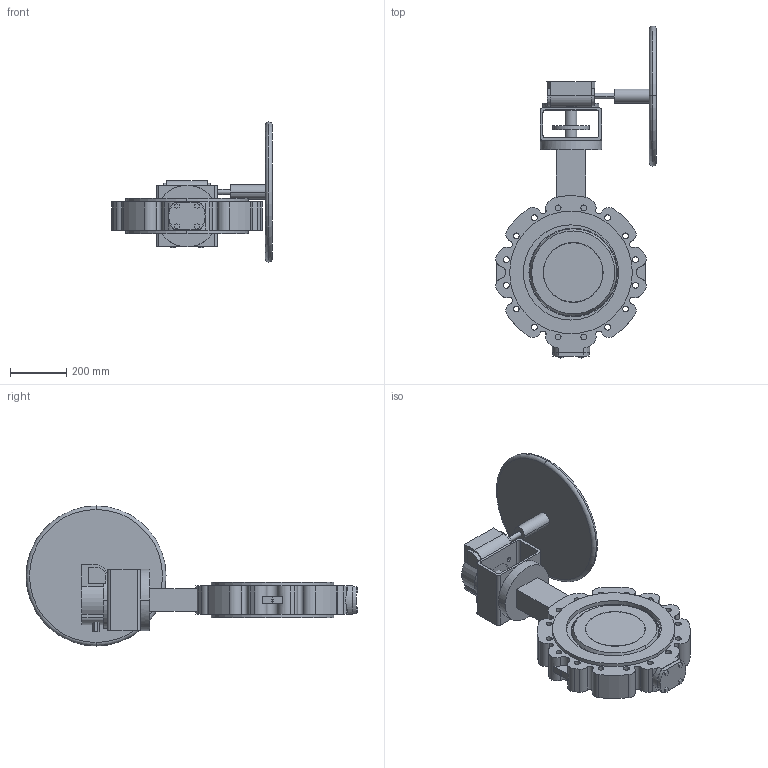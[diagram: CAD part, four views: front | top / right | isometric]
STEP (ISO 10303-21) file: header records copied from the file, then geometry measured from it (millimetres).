
FILE_DESCRIPTION( ( '' ), '1' );
FILE_NAME( 'F:/DE-SHS/TB/OR/04-Sonstiges/daten/Excel/mneugeba/018_ZETRIX-PN16_Getriebe-Rotork/c000006435.stp', '2016-09-19T06:28:11', ( '' ), ( '' ), ' ', ' ', ' ' );
FILE_SCHEMA( ( 'CONFIG_CONTROL_DESIGN' ) );
Length unit declared in the file: millimetre
Products named in the file (2): 1; 2
Bounding box: 574.04 x 1185.4 x 500 mm (x, y, z)
Volume: 31180669 mm3; surface area: 1976075.1 mm2
Topology: 2 solids, 2 shells, 350 faces, 933 edges, 621 vertices
Faces by surface type: cylinder 179, plane 159, sphere 4, cone 4, torus 4
Entity records: 11914 total; most frequent: CARTESIAN_POINT 2649, DIRECTION 2014, ORIENTED_EDGE 1866, EDGE_CURVE 933, AXIS2_PLACEMENT_3D 760, VERTEX_POINT 621, LINE 494, VECTOR 494
